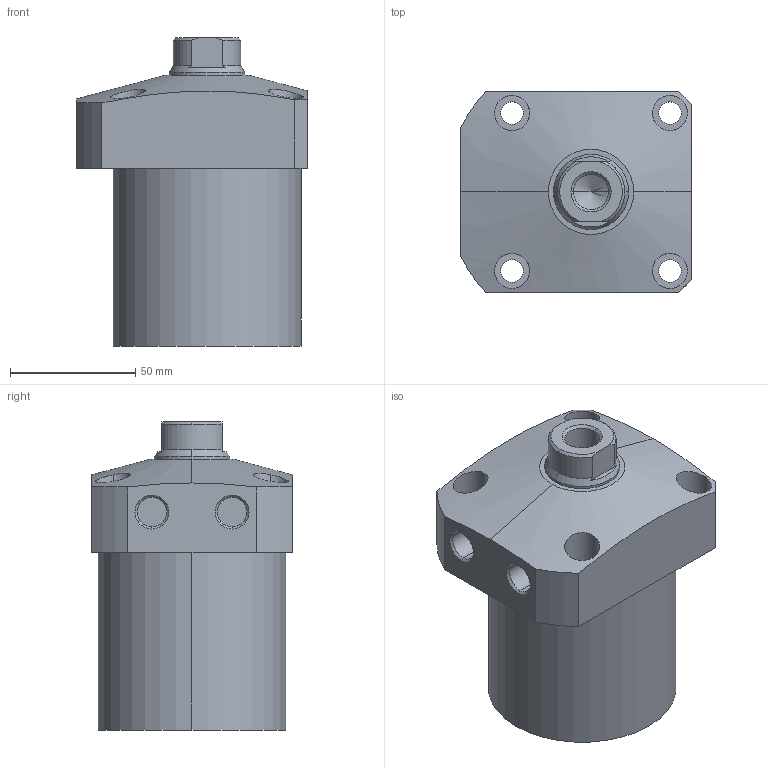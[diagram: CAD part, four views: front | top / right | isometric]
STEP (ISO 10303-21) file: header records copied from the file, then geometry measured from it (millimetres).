
FILE_DESCRIPTION (( 'STEP AP203' ), '1' );
FILE_NAME ('CLL-075CA-060.STEP', '2019-12-20T05:54:14', ( '' ), ( '' ), 'SwSTEP 2.0', 'SolidWorks 2015', '' );
FILE_SCHEMA (( 'CONFIG_CONTROL_DESIGN' ));
Length unit declared in the file: millimetre
Products named in the file (1): CLL-075CA-060
Bounding box: 92 x 80 x 123 mm (x, y, z)
Volume: 536366.6 mm3; surface area: 48004.8 mm2
Topology: 1 solids, 1 shells, 72 faces, 169 edges, 108 vertices
Faces by surface type: cylinder 35, plane 22, cone 15
Entity records: 2557 total; most frequent: CARTESIAN_POINT 792, DIRECTION 366, ORIENTED_EDGE 334, EDGE_CURVE 167, AXIS2_PLACEMENT_3D 150, VERTEX_POINT 108, EDGE_LOOP 91, CIRCLE 77
